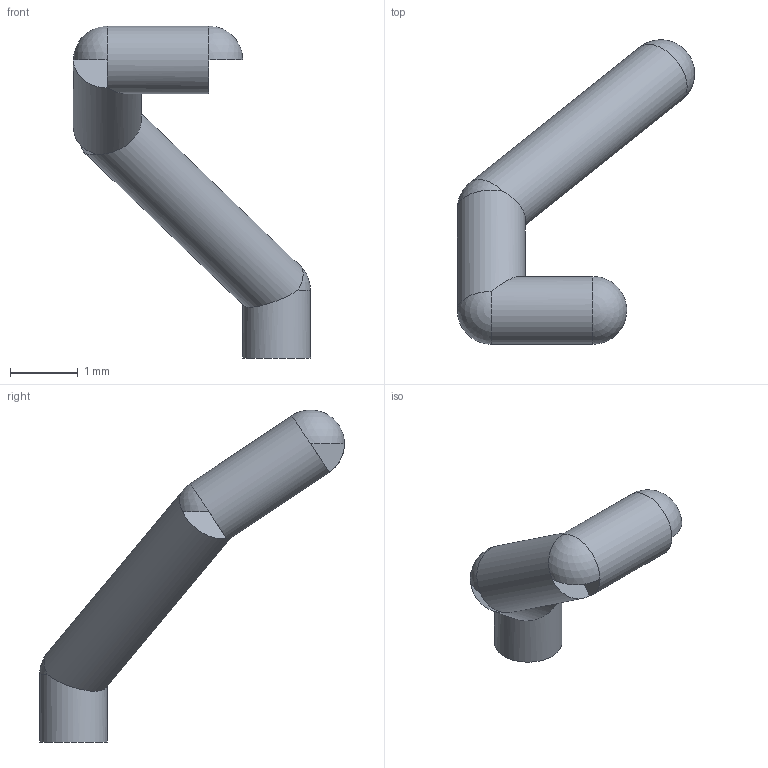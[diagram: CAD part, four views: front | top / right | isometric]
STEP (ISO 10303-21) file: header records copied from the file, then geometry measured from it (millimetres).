
FILE_DESCRIPTION(('Open CASCADE Model'),'2;1');
FILE_NAME('Open CASCADE Shape Model','2026-10-17T17:22:15',('Author'),( 'Open CASCADE'),'Open CASCADE STEP processor 7.9','Open CASCADE 7.9' ,'Unknown');
FILE_SCHEMA(('AUTOMOTIVE_DESIGN { 1 0 10303 214 1 1 1 1 }'));
Length unit declared in the file: millimetre
Products named in the file (1): Open CASCADE STEP translator 7.9 31
Bounding box: 3.5 x 4.5 x 4.9 mm (x, y, z)
Volume: 6.5 mm3; surface area: 28.8 mm2
Topology: 1 solids, 1 shells, 17 faces, 38 edges, 21 vertices
Faces by surface type: plane 9, cylinder 4, sphere 4
Full cylindrical faces by diameter (mm): 1 x4
Entity records: 1087 total; most frequent: CARTESIAN_POINT 353, DIRECTION 139, ORIENTED_EDGE 72, PCURVE 72, DEFINITIONAL_REPRESENTATION 72, AXIS2_PLACEMENT_3D 43, LINE 43, VECTOR 43
